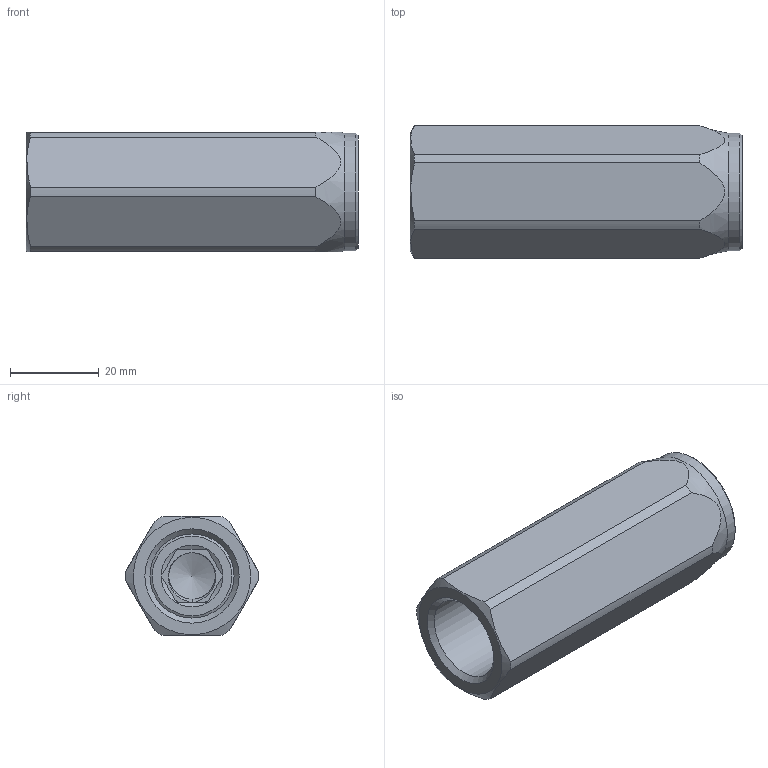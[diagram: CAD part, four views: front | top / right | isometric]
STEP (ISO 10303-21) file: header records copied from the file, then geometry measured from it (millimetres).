
FILE_DESCRIPTION (( 'STEP AP214' ), '1' );
FILE_NAME ('VUR120.STEP', '2020-06-15T07:01:31', ( '' ), ( '' ), 'SwSTEP 2.0', 'SolidWorks 2017', '' );
FILE_SCHEMA (( 'AUTOMOTIVE_DESIGN' ));
Length unit declared in the file: millimetre
Products named in the file (1): VUR120
Bounding box: 75 x 29.99 x 27 mm (x, y, z)
Volume: 30219.3 mm3; surface area: 16351.3 mm2
Topology: 4 solids, 4 shells, 74 faces, 166 edges, 104 vertices
Faces by surface type: plane 27, cylinder 22, cone 17, bspline 5, torus 3
Full cylindrical faces by diameter (mm): 5.5 x4, 10.5 x1, 11 x1, 14 x1, 14.5 x2, 18 x2, 19 x2, 20.955 x1, 21.2 x1, 26.5 x1
Entity records: 4824 total; most frequent: CARTESIAN_POINT 2538, DIRECTION 281, ORIENTED_EDGE 232, EDGE_LOOP 130, AXIS2_PLACEMENT_3D 128, EDGE_CURVE 116, FACE_OUTER_BOUND 95, VERTEX_POINT 94
